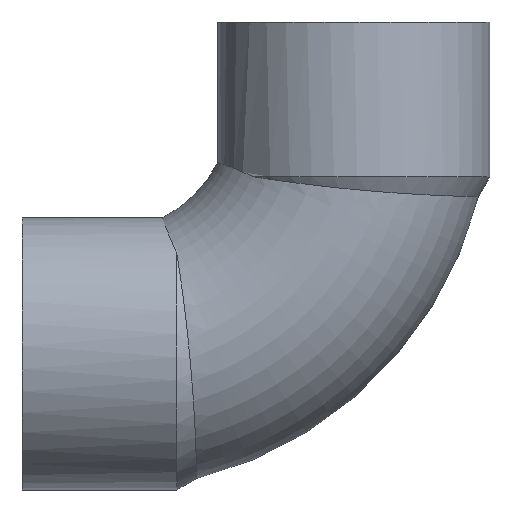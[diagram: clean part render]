
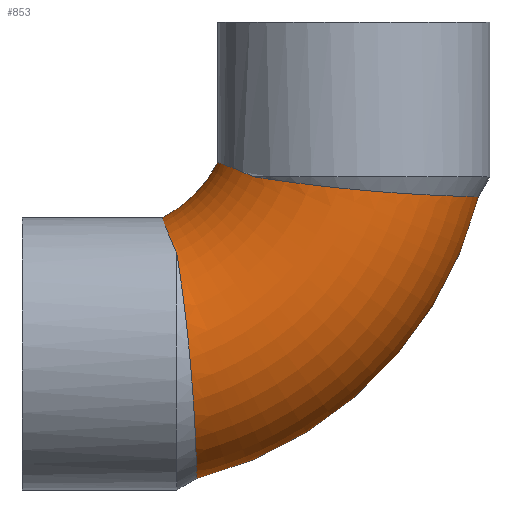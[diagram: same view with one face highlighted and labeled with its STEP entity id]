
A CAD part, top view. The second image highlights one B-rep face of the part: STEP entity #853.
In plain terms, the highlighted toroidal (fillet/blend) face has major radius 54 mm and minor radius 27 mm.
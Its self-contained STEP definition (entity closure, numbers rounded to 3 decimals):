
#159=CARTESIAN_POINT('',(19.549,-78.605,0.));
#160=VERTEX_POINT('',#159);
#161=CARTESIAN_POINT('',(78.605,-19.549,0.));
#162=VERTEX_POINT('',#161);
#163=CARTESIAN_POINT('',(0.0,0.0,0.));
#164=DIRECTION('',(0.0,0.0,1.0));
#165=DIRECTION('',(1.0,0.0,0.0));
#166=AXIS2_PLACEMENT_3D('',#163,#164,#165);
#167=CIRCLE('',#166,81.0);
#168=EDGE_CURVE('',#160,#162,#167,.T.);
#189=CARTESIAN_POINT('',(12.369,-24.,0.));
#190=VERTEX_POINT('',#189);
#202=CARTESIAN_POINT('',(24.,-12.369,0.));
#203=VERTEX_POINT('',#202);
#204=CARTESIAN_POINT('',(0.0,0.0,0.));
#205=DIRECTION('',(0.0,0.0,-1.0));
#206=DIRECTION('',(1.0,0.0,0.0));
#207=AXIS2_PLACEMENT_3D('',#204,#205,#206);
#208=CIRCLE('',#207,27.0);
#209=EDGE_CURVE('',#203,#190,#208,.T.);
#319=CARTESIAN_POINT('',(15.402,-31.396,19.154));
#320=VERTEX_POINT('',#319);
#321=CARTESIAN_POINT('',(15.402,-31.396,19.154));
#322=CARTESIAN_POINT('',(15.664,-33.018,20.715));
#323=CARTESIAN_POINT('',(15.941,-34.824,22.073));
#324=CARTESIAN_POINT('',(16.511,-38.84,24.398));
#325=CARTESIAN_POINT('',(16.804,-41.056,25.328));
#326=CARTESIAN_POINT('',(17.479,-46.616,26.871));
#327=CARTESIAN_POINT('',(17.844,-50.013,27.187));
#328=CARTESIAN_POINT('',(18.468,-56.714,26.605));
#329=CARTESIAN_POINT('',(18.725,-59.97,25.729));
#330=CARTESIAN_POINT('',(19.121,-65.984,22.882));
#331=CARTESIAN_POINT('',(19.259,-68.701,20.947));
#332=CARTESIAN_POINT('',(19.443,-73.296,16.218));
#333=CARTESIAN_POINT('',(19.49,-75.142,13.47));
#334=CARTESIAN_POINT('',(19.542,-77.776,7.362));
#335=CARTESIAN_POINT('',(19.548,-78.509,4.049));
#336=CARTESIAN_POINT('',(19.549,-78.603,0.455));
#337=CARTESIAN_POINT('',(19.549,-78.605,0.228));
#338=CARTESIAN_POINT('',(19.549,-78.605,0.));
#339=B_SPLINE_CURVE_WITH_KNOTS('',3,(#321,#322,#323,#324,#325,#326,#327,#328,#329,#330,#331,#332,#333,#334,#335,#336,#337,#338),.UNSPECIFIED.,.F.,.U.,(4,2,2,2,2,2,2,2,4),(-12.975,-12.296,-11.573,-10.554,-9.548,-8.555,-7.569,-6.558,-6.49),.UNSPECIFIED.);
#340=EDGE_CURVE('',#320,#160,#339,.T.);
#366=CARTESIAN_POINT('',(12.369,-24.,0.));
#367=CARTESIAN_POINT('',(12.369,-24.,0.855));
#368=CARTESIAN_POINT('',(12.383,-24.038,1.71));
#369=CARTESIAN_POINT('',(12.527,-24.433,6.082));
#370=CARTESIAN_POINT('',(12.875,-25.405,9.499));
#371=CARTESIAN_POINT('',(13.951,-28.139,15.034));
#372=CARTESIAN_POINT('',(14.567,-29.656,17.237));
#373=CARTESIAN_POINT('',(15.402,-31.396,19.154));
#374=B_SPLINE_CURVE_WITH_KNOTS('',3,(#366,#367,#368,#369,#370,#371,#372,#373),.UNSPECIFIED.,.F.,.U.,(4,2,2,4),(-2.126,-1.87,-0.816,0.0),.UNSPECIFIED.);
#375=EDGE_CURVE('',#190,#320,#374,.T.);
#715=CARTESIAN_POINT('',(31.396,-15.402,19.154));
#716=VERTEX_POINT('',#715);
#717=CARTESIAN_POINT('',(31.396,-15.402,19.154));
#718=CARTESIAN_POINT('',(29.721,-14.598,17.308));
#719=CARTESIAN_POINT('',(28.251,-13.998,15.197));
#720=CARTESIAN_POINT('',(25.943,-13.085,10.644));
#721=CARTESIAN_POINT('',(25.099,-12.773,8.24));
#722=CARTESIAN_POINT('',(24.196,-12.44,3.856));
#723=CARTESIAN_POINT('',(24.,-12.369,1.93));
#724=CARTESIAN_POINT('',(24.,-12.369,0.));
#725=B_SPLINE_CURVE_WITH_KNOTS('',3,(#717,#718,#719,#720,#721,#722,#723,#724),.UNSPECIFIED.,.F.,.U.,(4,2,2,4),(-4.249,-3.464,-2.703,-2.126),.UNSPECIFIED.);
#726=EDGE_CURVE('',#716,#203,#725,.T.);
#766=CARTESIAN_POINT('',(78.605,-19.549,0.));
#767=CARTESIAN_POINT('',(78.605,-19.549,3.262));
#768=CARTESIAN_POINT('',(77.998,-19.545,6.493));
#769=CARTESIAN_POINT('',(75.534,-19.499,12.848));
#770=CARTESIAN_POINT('',(73.601,-19.454,15.865));
#771=CARTESIAN_POINT('',(68.636,-19.257,21.05));
#772=CARTESIAN_POINT('',(65.631,-19.104,23.145));
#773=CARTESIAN_POINT('',(58.932,-18.649,26.099));
#774=CARTESIAN_POINT('',(55.292,-18.35,26.905));
#775=CARTESIAN_POINT('',(47.866,-17.621,27.08));
#776=CARTESIAN_POINT('',(44.147,-17.197,26.426));
#777=CARTESIAN_POINT('',(37.22,-16.299,23.73));
#778=CARTESIAN_POINT('',(34.063,-15.833,21.721));
#779=CARTESIAN_POINT('',(31.396,-15.402,19.154));
#780=B_SPLINE_CURVE_WITH_KNOTS('',3,(#766,#767,#768,#769,#770,#771,#772,#773,#774,#775,#776,#777,#778,#779),.UNSPECIFIED.,.F.,.U.,(4,2,2,2,2,2,4),(-6.49,-5.51,-4.444,-3.355,-2.245,-1.118,0.0),.UNSPECIFIED.);
#781=EDGE_CURVE('',#162,#716,#780,.T.);
#840=CARTESIAN_POINT('',(0.0,0.0,0.0));
#841=DIRECTION('',(0.0,0.0,1.0));
#842=DIRECTION('',(1.0,0.0,0.0));
#843=AXIS2_PLACEMENT_3D('',#840,#841,#842);
#844=TOROIDAL_SURFACE('',#843,54.0,27.0);
#845=ORIENTED_EDGE('',*,*,#168,.T.);
#846=ORIENTED_EDGE('',*,*,#781,.T.);
#847=ORIENTED_EDGE('',*,*,#726,.T.);
#848=ORIENTED_EDGE('',*,*,#209,.T.);
#849=ORIENTED_EDGE('',*,*,#375,.T.);
#850=ORIENTED_EDGE('',*,*,#340,.T.);
#851=EDGE_LOOP('',(#845,#846,#847,#848,#849,#850));
#852=FACE_OUTER_BOUND('',#851,.T.);
#853=ADVANCED_FACE('',(#852),#844,.T.);
